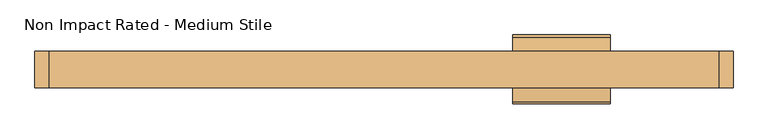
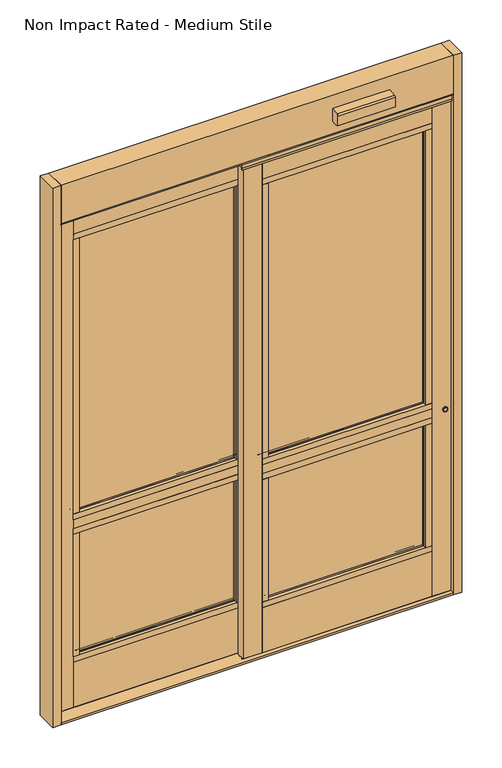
"""IFC4 building model written with IfcOpenShell, lengths in millimetres: door geometry, Door_Sliding_AssaAbloy_Resilience-R128-FBO-Single : Non Impact Rated - Medium Stile."""

from ifc_helpers import new_model, si_unit, point, frame, frame_2d, origin, origin_with_axes, place, context, project, spatial, polyline, circle_curve, ellipse_curve, trimmed, segment, composite_curve, outline, extrude, source, transform, mapped, element, save
from ifc_brep_helpers import plane_surface, cylinder_surface, advanced_brep


def non_impact_rated_medium_stile_77e616cb(model_context):
    return source(origin(), model_context, "Body", "SolidModel", [
        extrude(outline(composite_curve([segment(trimmed(circle_curve(frame_2d((1054.1, 2644.9219468)), 10.4962305), [point((1064.5962305, 2644.9219468))], [point((1043.6037695, 2644.9219468))], False, "CARTESIAN"), True, "CONTINUOUS"), segment(trimmed(circle_curve(frame_2d((1054.1, 2644.9219468)), 10.4962305), [point((1043.6037695, 2644.9219468))], [point((1064.5962305, 2644.9219468))], False, "CARTESIAN"), True, "CONTINUOUS")], self_intersect=False)), frame((0.0, -1081.5692023, 0.0), z_axis=(0.0, 1.0, 0.0), x_axis=(0.0, 0.0, 1.0)), (0.0, 0.0, 1.0), 4.8031585),
        extrude(outline(composite_curve([segment(trimmed(circle_curve(frame_2d((1054.1, 2644.9219468)), 12.7), [point((1066.8, 2644.9219468))], [point((1041.4, 2644.9219468))], False, "CARTESIAN"), True, "CONTINUOUS"), segment(trimmed(circle_curve(frame_2d((1054.1, 2644.9219468)), 12.7), [point((1041.4, 2644.9219468))], [point((1066.8, 2644.9219468))], False, "CARTESIAN"), True, "CONTINUOUS")], self_intersect=False), holes=[composite_curve([segment(trimmed(circle_curve(frame_2d((1054.1, 2644.9219468)), 10.4962305), [point((1064.5962305, 2644.9219468))], [point((1043.6037695, 2644.9219468))], True, "CARTESIAN"), True, "CONTINUOUS"), segment(trimmed(circle_curve(frame_2d((1054.1, 2644.9219468)), 10.4962305), [point((1043.6037695, 2644.9219468))], [point((1064.5962305, 2644.9219468))], True, "CARTESIAN"), True, "CONTINUOUS")], self_intersect=False)]), frame((0.0, -1083.1160438, 0.0), z_axis=(0.0, 1.0, 0.0), x_axis=(0.0, 0.0, 1.0)), (0.0, 0.0, 1.0), 6.35),
        extrude(outline(composite_curve([segment(trimmed(circle_curve(frame_2d((1054.1, 2644.9219468)), 10.4962305), [point((1054.1, 2634.4257163))], [point((1054.1, 2655.4181773))], False, "CARTESIAN"), True, "CONTINUOUS"), segment(trimmed(circle_curve(frame_2d((1054.1, 2644.9219468)), 10.4962305), [point((1054.1, 2655.4181773))], [point((1054.1, 2634.4257163))], False, "CARTESIAN"), True, "CONTINUOUS")], self_intersect=False)), frame((0.0, -1032.3160438, 0.0), z_axis=(0.0, 1.0, 0.0), x_axis=(0.0, 0.0, 1.0)), (0.0, 0.0, 1.0), 4.7625),
        extrude(outline(composite_curve([segment(trimmed(circle_curve(frame_2d((1054.1, 2644.9219468)), 12.7), [point((1054.1, 2632.2219468))], [point((1054.1, 2657.6219468))], False, "CARTESIAN"), True, "CONTINUOUS"), segment(trimmed(circle_curve(frame_2d((1054.1, 2644.9219468)), 12.7), [point((1054.1, 2657.6219468))], [point((1054.1, 2632.2219468))], False, "CARTESIAN"), True, "CONTINUOUS")], self_intersect=False), holes=[composite_curve([segment(trimmed(circle_curve(frame_2d((1054.1, 2644.9219468)), 10.4962305), [point((1054.1, 2634.4257163))], [point((1054.1, 2655.4181773))], True, "CARTESIAN"), True, "CONTINUOUS"), segment(trimmed(circle_curve(frame_2d((1054.1, 2644.9219468)), 10.4962305), [point((1054.1, 2655.4181773))], [point((1054.1, 2634.4257163))], True, "CARTESIAN"), True, "CONTINUOUS")], self_intersect=False)]), frame((0.0, -1032.3160438, 0.0), z_axis=(0.0, 1.0, 0.0), x_axis=(0.0, 0.0, 1.0)), (0.0, 0.0, 1.0), 6.35),
        extrude(outline(polyline([(703.4094468, -989.4535438), (1584.4719468, -989.4535438), (1584.4719468, -995.8035438), (703.4094468, -995.8035438), (703.4094468, -989.4535438)])), frame((0.0, 0.0, 285.75), z_axis=(0.0, 0.0, 1.0), x_axis=(1.0, 0.0, 0.0)), (0.0, 0.0, 1.0), 2393.95),
        extrude(outline(polyline([(1597.1719468, -1022.7910438), (690.7094468, -1022.7910438), (690.7094468, -978.3410438), (1597.1719468, -978.3410438), (1597.1719468, -1022.7910438)])), frame((0.0, 0.0, 1079.5), z_axis=(0.0, 0.0, 1.0), x_axis=(1.0, 0.0, 0.0)), (0.0, 0.0, 1.0), 31.75),
        extrude(outline(polyline([(1597.1719468, -1022.7910438), (690.7094468, -1022.7910438), (690.7094468, -978.3410438), (1597.1719468, -978.3410438), (1597.1719468, -1022.7910438)])), frame((0.0, 0.0, 996.95), z_axis=(0.0, 0.0, 1.0), x_axis=(1.0, 0.0, 0.0)), (0.0, 0.0, 1.0), 31.75),
        extrude(outline(polyline([(722.4594468, -1022.7910438), (690.7094468, -1022.7910438), (690.7094468, -978.3410438), (722.4594468, -978.3410438), (722.4594468, -1022.7910438)])), frame((0.0, 0.0, 1111.25), z_axis=(0.0, 0.0, 1.0), x_axis=(1.0, 0.0, 0.0)), (0.0, 0.0, 1.0), 1549.4),
        extrude(outline(polyline([(722.4594468, -1022.7910438), (690.7094468, -1022.7910438), (690.7094468, -978.3410438), (722.4594468, -978.3410438), (722.4594468, -1022.7910438)])), frame((0.0, 0.0, 304.8), z_axis=(0.0, 0.0, 1.0), x_axis=(1.0, 0.0, 0.0)), (0.0, 0.0, 1.0), 692.15),
        extrude(outline(polyline([(1597.1719468, -1022.7910438), (1565.4219468, -1022.7910438), (1565.4219468, -978.3410438), (1597.1719468, -978.3410438), (1597.1719468, -1022.7910438)])), frame((0.0, 0.0, 304.8), z_axis=(0.0, 0.0, 1.0), x_axis=(1.0, 0.0, 0.0)), (0.0, 0.0, 1.0), 692.15),
        extrude(outline(polyline([(1597.1719468, -1022.7910438), (1565.4219468, -1022.7910438), (1565.4219468, -978.3410438), (1597.1719468, -978.3410438), (1597.1719468, -1022.7910438)])), frame((0.0, 0.0, 1111.25), z_axis=(0.0, 0.0, 1.0), x_axis=(1.0, 0.0, 0.0)), (0.0, 0.0, 1.0), 1549.4),
        extrude(outline(polyline([(690.7094468, -978.3410438), (690.7094468, -1022.7910438), (589.1094468, -1022.7910438), (589.1094468, -978.3410438), (690.7094468, -978.3410438)])), frame((0.0, 0.0, 19.05), z_axis=(0.0, 0.0, 1.0), x_axis=(1.0, 0.0, 0.0)), (0.0, 0.0, 1.0), 2851.15),
        extrude(outline(polyline([(690.7094468, -1022.7910438), (690.7094468, -978.3410438), (1597.1719468, -978.3410438), (1597.1719468, -1022.7910438), (690.7094468, -1022.7910438)])), frame((0.0, 0.0, 1028.7), z_axis=(0.0, 0.0, 1.0), x_axis=(1.0, 0.0, 0.0)), (0.0, 0.0, 1.0), 50.8),
        extrude(outline(polyline([(1597.1719468, -1022.7910438), (690.7094468, -1022.7910438), (690.7094468, -978.3410438), (1597.1719468, -978.3410438), (1597.1719468, -1022.7910438)])), frame((0.0, 0.0, 2660.65), z_axis=(0.0, 0.0, 1.0), x_axis=(1.0, 0.0, 0.0)), (0.0, 0.0, 1.0), 31.75),
        extrude(outline(polyline([(1597.1719468, -1022.7910438), (690.7094468, -1022.7910438), (690.7094468, -978.3410438), (1597.1719468, -978.3410438), (1597.1719468, -1022.7910438)])), frame((0.0, 0.0, 273.05), z_axis=(0.0, 0.0, 1.0), x_axis=(1.0, 0.0, 0.0)), (0.0, 0.0, 1.0), 31.75),
        extrude(outline(polyline([(690.7094468, -978.3410438), (1597.1719468, -978.3410438), (1597.1719468, -1022.7910438), (690.7094468, -1022.7910438), (690.7094468, -978.3410438)])), frame((0.0, 0.0, 2692.4), z_axis=(0.0, 0.0, 1.0), x_axis=(1.0, 0.0, 0.0)), (0.0, 0.0, 1.0), 177.8),
        extrude(outline(polyline([(690.7094468, -978.3410438), (1597.1719468, -978.3410438), (1597.1719468, -1022.7910438), (690.7094468, -1022.7910438), (690.7094468, -978.3410438)])), frame((0.0, 0.0, 19.05), z_axis=(0.0, 0.0, 1.0), x_axis=(1.0, 0.0, 0.0)), (0.0, 0.0, 1.0), 254.0),
        advanced_brep(
        [(1563.7256186, -982.1719606, 2658.9536718), (1564.5073098, -981.5160438, 2659.735363), (1564.5073098, -981.5160438, 305.714637), (1563.7256186, -982.1719606, 306.4963282), (1562.441679, -989.4535438, 2657.6697323), (1562.441679, -989.4535438, 307.7802677), (1565.4219468, -981.5160438, 2660.65), (1565.4219468, -989.4535438, 2660.65), (1565.4219468, -989.4535438, 304.8), (1565.4219468, -981.5160438, 304.8), (723.3740838, -981.5160438, 305.714637), (724.1557749, -982.1719606, 306.4963282), (725.4397145, -989.4535438, 307.7802677), (722.4594468, -989.4535438, 304.8), (722.4594468, -981.5160438, 304.8), (723.3740838, -981.5160438, 2659.735363), (724.1557749, -982.1719606, 2658.9536718), (725.4397145, -989.4535438, 2657.6697323), (722.4594468, -989.4535438, 2660.65), (722.4594468, -981.5160438, 2660.65)],
        [
            (0, 1, ellipse_curve(frame((1564.5073098, -982.3097938, 2659.735363), z_axis=(0.7071067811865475, 0.0, -0.7071067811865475), x_axis=(0.7071067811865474, 0.0, 0.7071067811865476)), 1.122532, 0.79375)),
            (1, 2),
            (2, 3, ellipse_curve(frame((1564.5073098, -982.3097938, 305.714637), z_axis=(0.7071067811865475, 0.0, 0.7071067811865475), x_axis=(-0.7071067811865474, 0.0, 0.7071067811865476)), 1.122532, 0.79375)),
            (3, 0),
            (4, 0),
            (3, 5),
            (5, 4),
            (6, 7),
            (7, 8),
            (8, 9),
            (9, 6),
            (2, 10),
            (10, 11, ellipse_curve(frame((723.3740838, -982.3097938, 305.714637), z_axis=(0.7071067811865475, 0.0, -0.7071067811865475), x_axis=(0.7071067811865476, 0.0, 0.7071067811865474)), 1.122532, 0.79375)),
            (11, 3),
            (11, 12),
            (12, 5),
            (8, 13),
            (13, 14),
            (14, 9),
            (10, 15),
            (15, 16, ellipse_curve(frame((723.3740838, -982.3097938, 2659.735363), z_axis=(-0.7071067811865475, 0.0, -0.7071067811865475), x_axis=(0.7071067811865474, 0.0, -0.7071067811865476)), 1.122532, 0.79375)),
            (16, 11),
            (16, 17),
            (17, 12),
            (13, 18),
            (18, 19),
            (19, 14),
            (19, 6),
            (1, 15),
            (0, 16),
            (4, 17),
            (7, 18),
        ],
        [
            cylinder_surface(frame((1564.5073098, -982.3097938, 2692.4), z_axis=(0.0, 0.0, 1.0), x_axis=(1.0, 0.0, 0.0)), 0.79375),
            plane_surface(frame((1563.7256186, -982.1719606, 2658.9536718), z_axis=(-0.9848077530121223, 0.17364817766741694, 0.0), x_axis=(0.0, 0.0, -1.0))),
            plane_surface(frame((1565.4219468, -989.4535438, 2660.65), z_axis=(1.0, 0.0, 0.0), x_axis=(0.0, 0.0, -1.0))),
            cylinder_surface(frame((1597.1719468, -982.3097938, 305.714637), z_axis=(1.0, 0.0, 0.0), x_axis=(0.0, 0.0, -1.0)), 0.79375),
            plane_surface(frame((1563.7256186, -982.1719606, 306.4963282), z_axis=(0.0, 0.17364817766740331, 0.9848077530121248), x_axis=(-1.0, 0.0, 0.0))),
            plane_surface(frame((1565.4219468, -989.4535438, 304.8), z_axis=(0.0, 0.0, -1.0), x_axis=(-1.0, 0.0, 0.0))),
            cylinder_surface(frame((723.3740838, -982.3097938, 273.05), z_axis=(0.0, 0.0, -1.0), x_axis=(-1.0, 0.0, 0.0)), 0.79375),
            plane_surface(frame((724.1557749, -982.1719606, 306.4963282), z_axis=(0.9848077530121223, 0.17364817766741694, 0.0), x_axis=(0.0, 0.0, 1.0))),
            plane_surface(frame((722.4594468, -989.4535438, 304.8), z_axis=(-1.0, 0.0, 0.0), x_axis=(0.0, 0.0, 1.0))),
            plane_surface(frame((722.4594468, -981.5160438, 2660.65), z_axis=(0.0, 1.0, 0.0), x_axis=(1.0, 0.0, 0.0))),
            cylinder_surface(frame((690.7094468, -982.3097938, 2659.735363), z_axis=(-1.0, 0.0, 0.0), x_axis=(0.0, 0.0, 1.0)), 0.79375),
            plane_surface(frame((724.1557749, -982.1719606, 2658.9536718), z_axis=(0.0, 0.17364817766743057, -0.9848077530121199), x_axis=(1.0, 0.0, 0.0))),
            plane_surface(frame((725.4397145, -989.4535438, 2657.6697323), z_axis=(0.0, -1.0, 0.0), x_axis=(1.0, 0.0, 0.0))),
            plane_surface(frame((722.4594468, -989.4535438, 2660.65), z_axis=(0.0, 0.0, 1.0), x_axis=(1.0, 0.0, 0.0))),
        ],
        [
            (0, [[1, 2, 3, 4]]),
            (1, [[5, -4, 6, 7]]),
            (2, [[8, 9, 10, 11]]),
            (3, [[-3, 12, 13, 14]]),
            (4, [[-6, -14, 15, 16]]),
            (5, [[-10, 17, 18, 19]]),
            (6, [[-13, 20, 21, 22]]),
            (7, [[-15, -22, 23, 24]]),
            (8, [[-18, 25, 26, 27]]),
            (9, [[-19, -27, 28, -11], [29, -20, -12, -2]]),
            (10, [[-21, -29, -1, 30]]),
            (11, [[-23, -30, -5, 31]]),
            (12, [[32, -25, -17, -9], [-16, -24, -31, -7]]),
            (13, [[-26, -32, -8, -28]]),
        ],
    ),
        advanced_brep(
        [(1565.4219468, -995.8035438, 2660.65), (1565.4219468, -1003.7410438, 2660.65), (1565.4219468, -1003.7410438, 304.8), (1565.4219468, -995.8035438, 304.8), (1563.7256186, -1003.0851271, 2658.9536718), (1562.441679, -995.8035438, 2657.6697323), (1562.441679, -995.8035438, 307.7802677), (1563.7256186, -1003.0851271, 306.4963282), (1564.5073098, -1003.7410438, 2659.735363), (1564.5073098, -1003.7410438, 305.714637), (722.4594468, -1003.7410438, 304.8), (722.4594468, -995.8035438, 304.8), (725.4397145, -995.8035438, 307.7802677), (724.1557749, -1003.0851271, 306.4963282), (723.3740838, -1003.7410438, 305.714637), (722.4594468, -1003.7410438, 2660.65), (722.4594468, -995.8035438, 2660.65), (725.4397145, -995.8035438, 2657.6697323), (724.1557749, -1003.0851271, 2658.9536718), (723.3740838, -1003.7410438, 2659.735363)],
        [
            (0, 1),
            (1, 2),
            (2, 3),
            (3, 0),
            (4, 5),
            (5, 6),
            (6, 7),
            (7, 4),
            (8, 4, ellipse_curve(frame((1564.5073098, -1002.9472938, 2659.735363), z_axis=(0.7071067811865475, 0.0, -0.7071067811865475), x_axis=(0.7071067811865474, 0.0, 0.7071067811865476)), 1.122532, 0.79375)),
            (7, 9, ellipse_curve(frame((1564.5073098, -1002.9472938, 305.714637), z_axis=(0.7071067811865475, 0.0, 0.7071067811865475), x_axis=(-0.7071067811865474, 0.0, 0.7071067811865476)), 1.122532, 0.79375)),
            (9, 8),
            (2, 10),
            (10, 11),
            (11, 3),
            (6, 12),
            (12, 13),
            (13, 7),
            (13, 14, ellipse_curve(frame((723.3740838, -1002.9472938, 305.714637), z_axis=(0.7071067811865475, 0.0, -0.7071067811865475), x_axis=(0.7071067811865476, 0.0, 0.7071067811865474)), 1.122532, 0.79375)),
            (14, 9),
            (10, 15),
            (15, 16),
            (16, 11),
            (12, 17),
            (17, 18),
            (18, 13),
            (18, 19, ellipse_curve(frame((723.3740838, -1002.9472938, 2659.735363), z_axis=(-0.7071067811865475, 0.0, -0.7071067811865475), x_axis=(0.7071067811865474, 0.0, -0.7071067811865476)), 1.122532, 0.79375)),
            (19, 14),
            (15, 1),
            (0, 16),
            (5, 17),
            (4, 18),
            (8, 19),
        ],
        [
            plane_surface(frame((1565.4219468, -1003.7410438, 2660.65), z_axis=(1.0, 0.0, 0.0), x_axis=(0.0, 0.0, -1.0))),
            plane_surface(frame((1562.441679, -995.8035438, 2657.6697323), z_axis=(-0.9848077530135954, -0.17364817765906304, 0.0), x_axis=(0.0, 0.0, -1.0))),
            cylinder_surface(frame((1564.5073098, -1002.9472938, 2692.4), z_axis=(0.0, 0.0, 1.0), x_axis=(1.0, 0.0, 0.0)), 0.79375),
            plane_surface(frame((1565.4219468, -1003.7410438, 304.8), z_axis=(0.0, 0.0, -1.0), x_axis=(-1.0, 0.0, 0.0))),
            plane_surface(frame((1562.441679, -995.8035438, 307.7802677), z_axis=(0.0, -0.17364817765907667, 0.9848077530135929), x_axis=(-1.0, 0.0, 0.0))),
            cylinder_surface(frame((1597.1719468, -1002.9472938, 305.714637), z_axis=(1.0, 0.0, 0.0), x_axis=(0.0, 0.0, -1.0)), 0.79375),
            plane_surface(frame((722.4594468, -1003.7410438, 304.8), z_axis=(-1.0, 0.0, 0.0), x_axis=(0.0, 0.0, 1.0))),
            plane_surface(frame((725.4397145, -995.8035438, 307.7802677), z_axis=(0.9848077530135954, -0.17364817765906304, 0.0), x_axis=(0.0, 0.0, 1.0))),
            cylinder_surface(frame((723.3740838, -1002.9472938, 273.05), z_axis=(0.0, 0.0, -1.0), x_axis=(-1.0, 0.0, 0.0)), 0.79375),
            plane_surface(frame((722.4594468, -1003.7410438, 2660.65), z_axis=(0.0, 0.0, 1.0), x_axis=(1.0, 0.0, 0.0))),
            plane_surface(frame((722.4594468, -995.8035438, 2660.65), z_axis=(0.0, 1.0, 0.0), x_axis=(1.0, 0.0, 0.0))),
            plane_surface(frame((725.4397145, -995.8035438, 2657.6697323), z_axis=(0.0, -0.1736481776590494, -0.9848077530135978), x_axis=(1.0, 0.0, 0.0))),
            cylinder_surface(frame((690.7094468, -1002.9472938, 2659.735363), z_axis=(-1.0, 0.0, 0.0), x_axis=(0.0, 0.0, 1.0)), 0.79375),
            plane_surface(frame((723.3740838, -1003.7410438, 2659.735363), z_axis=(0.0, -1.0, 0.0), x_axis=(1.0, 0.0, 0.0))),
        ],
        [
            (0, [[1, 2, 3, 4]]),
            (1, [[5, 6, 7, 8]]),
            (2, [[9, -8, 10, 11]]),
            (3, [[-3, 12, 13, 14]]),
            (4, [[-7, 15, 16, 17]]),
            (5, [[-10, -17, 18, 19]]),
            (6, [[-13, 20, 21, 22]]),
            (7, [[-16, 23, 24, 25]]),
            (8, [[-18, -25, 26, 27]]),
            (9, [[-21, 28, -1, 29]]),
            (10, [[-14, -22, -29, -4], [30, -23, -15, -6]]),
            (11, [[-24, -30, -5, 31]]),
            (12, [[-26, -31, -9, 32]]),
            (13, [[-28, -20, -12, -2], [-19, -27, -32, -11]]),
        ],
    ),
        extrude(outline(composite_curve([segment(polyline([(-1003.7410439, 996.035363), (-1003.7410439, 996.95), (-995.8035438, 996.95), (-995.8035438, 993.9697323), (-1003.0851271, 995.2536718)]), True, "CONTINUOUS"), segment(trimmed(circle_curve(frame_2d((-1002.9472938, 996.035363)), 0.79375), [point((-1003.0851271, 995.2536718))], [point((-1003.7410439, 996.035363))], False, "CARTESIAN"), True, "CONTINUOUS")], self_intersect=False)), frame((690.7094468, 0.0, 0.0), z_axis=(1.0, 0.0, 0.0), x_axis=(0.0, 1.0, 0.0)), (0.0, 0.0, 1.0), 906.4625),
        extrude(outline(composite_curve([segment(trimmed(circle_curve(frame_2d((-982.3097938, 996.035363)), 0.79375), [point((-981.5160438, 996.035363))], [point((-982.1719606, 995.2536718))], False, "CARTESIAN"), True, "CONTINUOUS"), segment(polyline([(-982.1719606, 995.2536718), (-989.4535438, 993.9697323), (-989.4535438, 996.95), (-981.5160438, 996.95), (-981.5160438, 996.035363)]), True, "CONTINUOUS")], self_intersect=False)), frame((690.7094468, 0.0, 0.0), z_axis=(1.0, 0.0, 0.0), x_axis=(0.0, 1.0, 0.0)), (0.0, 0.0, 1.0), 906.4625),
        extrude(outline(composite_curve([segment(trimmed(circle_curve(frame_2d((-1002.9472938, 1112.164637)), 0.79375), [point((-1003.7410439, 1112.164637))], [point((-1003.0851271, 1112.9463282))], False, "CARTESIAN"), True, "CONTINUOUS"), segment(polyline([(-1003.0851271, 1112.9463282), (-995.8035438, 1114.2302677), (-995.8035438, 1111.25), (-1003.7410439, 1111.25), (-1003.7410439, 1112.164637)]), True, "CONTINUOUS")], self_intersect=False)), frame((690.7094468, 0.0, 0.0), z_axis=(1.0, 0.0, 0.0), x_axis=(0.0, 1.0, 0.0)), (0.0, 0.0, 1.0), 906.4625),
        extrude(outline(composite_curve([segment(polyline([(-981.5160438, 1112.164637), (-981.5160438, 1111.25), (-989.4535438, 1111.25), (-989.4535438, 1114.2302677), (-982.1719606, 1112.9463282)]), True, "CONTINUOUS"), segment(trimmed(circle_curve(frame_2d((-982.3097938, 1112.164637)), 0.79375), [point((-982.1719606, 1112.9463282))], [point((-981.5160438, 1112.164637))], False, "CARTESIAN"), True, "CONTINUOUS")], self_intersect=False)), frame((690.7094468, 0.0, 0.0), z_axis=(1.0, 0.0, 0.0), x_axis=(0.0, 1.0, 0.0)), (0.0, 0.0, 1.0), 906.4625),
        extrude(outline(polyline([(1698.7719468, -1011.6785438), (1698.7719468, -1016.4410438), (589.1094468, -1016.4410438), (589.1094468, -1011.6785438), (1698.7719468, -1011.6785438)])), frame((0.0, 0.0, 12.7), z_axis=(0.0, 0.0, 1.0), x_axis=(1.0, 0.0, 0.0)), (0.0, 0.0, 1.0), 6.35),
        extrude(outline(polyline([(1698.7719468, -984.6910438), (1698.7719468, -989.4535438), (589.1094468, -989.4535438), (589.1094468, -984.6910438), (1698.7719468, -984.6910438)])), frame((0.0, 0.0, 12.7), z_axis=(0.0, 0.0, 1.0), x_axis=(1.0, 0.0, 0.0)), (0.0, 0.0, 1.0), 6.35),
        extrude(outline(polyline([(583.5531968, -982.3326578), (589.1094468, -982.3326578), (589.1094468, -987.9741225), (583.5531968, -987.9741225), (583.5531968, -982.3326578)])), frame((0.0, 0.0, 19.05), z_axis=(0.0, 0.0, 1.0), x_axis=(1.0, 0.0, 0.0)), (0.0, 0.0, 1.0), 2851.15),
        extrude(outline(polyline([(583.5531968, -1018.7994299), (583.5531968, -1013.1579652), (589.1094468, -1013.1579652), (589.1094468, -1018.7994299), (583.5531968, -1018.7994299)])), frame((0.0, 0.0, 19.05), z_axis=(0.0, 0.0, 1.0), x_axis=(1.0, 0.0, 0.0)), (0.0, 0.0, 1.0), 2851.15),
        extrude(outline(polyline([(1698.7719468, -978.3410438), (1698.7719468, -1022.7910438), (1597.1719468, -1022.7910438), (1597.1719468, -978.3410438), (1698.7719468, -978.3410438)])), frame((0.0, 0.0, 19.05), z_axis=(0.0, 0.0, 1.0), x_axis=(1.0, 0.0, 0.0)), (0.0, 0.0, 1.0), 2851.15),
        extrude(outline(polyline([(1681.3094468, -1043.4285438), (2562.3719468, -1043.4285438), (2562.3719468, -1049.7785438), (1681.3094468, -1049.7785438), (1681.3094468, -1043.4285438)])), frame((0.0, 0.0, 285.75), z_axis=(0.0, 0.0, 1.0), x_axis=(1.0, 0.0, 0.0)), (0.0, 0.0, 1.0), 2393.95),
        extrude(outline(polyline([(2575.0719468, -1076.7660438), (1668.6094468, -1076.7660438), (1668.6094468, -1032.3160438), (2575.0719468, -1032.3160438), (2575.0719468, -1076.7660438)])), frame((0.0, 0.0, 1079.5), z_axis=(0.0, 0.0, 1.0), x_axis=(1.0, 0.0, 0.0)), (0.0, 0.0, 1.0), 31.75),
        extrude(outline(polyline([(2575.0719468, -1076.7660438), (1668.6094468, -1076.7660438), (1668.6094468, -1032.3160438), (2575.0719468, -1032.3160438), (2575.0719468, -1076.7660438)])), frame((0.0, 0.0, 996.95), z_axis=(0.0, 0.0, 1.0), x_axis=(1.0, 0.0, 0.0)), (0.0, 0.0, 1.0), 31.75),
        extrude(outline(polyline([(1700.3594468, -1076.7660438), (1668.6094468, -1076.7660438), (1668.6094468, -1032.3160438), (1700.3594468, -1032.3160438), (1700.3594468, -1076.7660438)])), frame((0.0, 0.0, 1111.25), z_axis=(0.0, 0.0, 1.0), x_axis=(1.0, 0.0, 0.0)), (0.0, 0.0, 1.0), 1549.4),
        extrude(outline(polyline([(1700.3594468, -1076.7660438), (1668.6094468, -1076.7660438), (1668.6094468, -1032.3160438), (1700.3594468, -1032.3160438), (1700.3594468, -1076.7660438)])), frame((0.0, 0.0, 304.8), z_axis=(0.0, 0.0, 1.0), x_axis=(1.0, 0.0, 0.0)), (0.0, 0.0, 1.0), 692.15),
        extrude(outline(polyline([(2575.0719468, -1076.7660438), (2543.3219468, -1076.7660438), (2543.3219468, -1032.3160438), (2575.0719468, -1032.3160438), (2575.0719468, -1076.7660438)])), frame((0.0, 0.0, 304.8), z_axis=(0.0, 0.0, 1.0), x_axis=(1.0, 0.0, 0.0)), (0.0, 0.0, 1.0), 692.15),
        extrude(outline(polyline([(2575.0719468, -1076.7660438), (2543.3219468, -1076.7660438), (2543.3219468, -1032.3160438), (2575.0719468, -1032.3160438), (2575.0719468, -1076.7660438)])), frame((0.0, 0.0, 1111.25), z_axis=(0.0, 0.0, 1.0), x_axis=(1.0, 0.0, 0.0)), (0.0, 0.0, 1.0), 1549.4),
        extrude(outline(polyline([(1668.6094468, -1032.3160438), (1668.6094468, -1076.7660438), (1567.0094468, -1076.7660438), (1567.0094468, -1032.3160438), (1668.6094468, -1032.3160438)])), frame((0.0, 0.0, 19.05), z_axis=(0.0, 0.0, 1.0), x_axis=(1.0, 0.0, 0.0)), (0.0, 0.0, 1.0), 2774.95),
        extrude(outline(polyline([(1668.6094468, -1076.7660438), (1668.6094468, -1032.3160438), (2575.0719468, -1032.3160438), (2575.0719468, -1076.7660438), (1668.6094468, -1076.7660438)])), frame((0.0, 0.0, 1028.7), z_axis=(0.0, 0.0, 1.0), x_axis=(1.0, 0.0, 0.0)), (0.0, 0.0, 1.0), 50.8),
        extrude(outline(polyline([(2575.0719468, -1076.7660438), (1668.6094468, -1076.7660438), (1668.6094468, -1032.3160438), (2575.0719468, -1032.3160438), (2575.0719468, -1076.7660438)])), frame((0.0, 0.0, 2660.65), z_axis=(0.0, 0.0, 1.0), x_axis=(1.0, 0.0, 0.0)), (0.0, 0.0, 1.0), 31.75),
        extrude(outline(polyline([(2575.0719468, -1076.7660438), (1668.6094468, -1076.7660438), (1668.6094468, -1032.3160438), (2575.0719468, -1032.3160438), (2575.0719468, -1076.7660438)])), frame((0.0, 0.0, 273.05), z_axis=(0.0, 0.0, 1.0), x_axis=(1.0, 0.0, 0.0)), (0.0, 0.0, 1.0), 31.75),
        extrude(outline(polyline([(2683.0219468, -1079.9410438), (1560.6594468, -1079.9410438), (1560.6594468, -1029.1410438), (2683.0219468, -1029.1410438), (2683.0219468, -1079.9410438)])), frame((0.0, 0.0, 2794.0), z_axis=(0.0, 0.0, 1.0), x_axis=(1.0, 0.0, 0.0)), (0.0, 0.0, 1.0), 69.85),
        extrude(outline(polyline([(1668.6094468, -1032.3160438), (2575.0719468, -1032.3160438), (2575.0719468, -1076.7660438), (1668.6094468, -1076.7660438), (1668.6094468, -1032.3160438)])), frame((0.0, 0.0, 2692.4), z_axis=(0.0, 0.0, 1.0), x_axis=(1.0, 0.0, 0.0)), (0.0, 0.0, 1.0), 101.6),
        extrude(outline(polyline([(1668.6094468, -1032.3160438), (2575.0719468, -1032.3160438), (2575.0719468, -1076.7660438), (1668.6094468, -1076.7660438), (1668.6094468, -1032.3160438)])), frame((0.0, 0.0, 19.05), z_axis=(0.0, 0.0, 1.0), x_axis=(1.0, 0.0, 0.0)), (0.0, 0.0, 1.0), 254.0),
        advanced_brep(
        [(2541.6256186, -1036.1469606, 2658.9536718), (2542.4073098, -1035.4910438, 2659.735363), (2542.4073098, -1035.4910438, 305.714637), (2541.6256186, -1036.1469606, 306.4963282), (2540.341679, -1043.4285438, 2657.6697323), (2540.341679, -1043.4285438, 307.7802677), (2543.3219468, -1035.4910438, 2660.65), (2543.3219468, -1043.4285438, 2660.65), (2543.3219468, -1043.4285438, 304.8), (2543.3219468, -1035.4910438, 304.8), (1701.2740838, -1035.4910438, 305.714637), (1702.0557749, -1036.1469606, 306.4963282), (1703.3397145, -1043.4285438, 307.7802677), (1700.3594468, -1043.4285438, 304.8), (1700.3594468, -1035.4910438, 304.8), (1701.2740838, -1035.4910438, 2659.735363), (1702.0557749, -1036.1469606, 2658.9536718), (1703.3397145, -1043.4285438, 2657.6697323), (1700.3594468, -1043.4285438, 2660.65), (1700.3594468, -1035.4910438, 2660.65)],
        [
            (0, 1, ellipse_curve(frame((2542.4073098, -1036.2847938, 2659.735363), z_axis=(0.7071067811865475, 0.0, -0.7071067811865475), x_axis=(0.7071067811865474, 0.0, 0.7071067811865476)), 1.122532, 0.79375)),
            (1, 2),
            (2, 3, ellipse_curve(frame((2542.4073098, -1036.2847938, 305.714637), z_axis=(0.7071067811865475, 0.0, 0.7071067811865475), x_axis=(-0.7071067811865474, 0.0, 0.7071067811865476)), 1.122532, 0.79375)),
            (3, 0),
            (4, 0),
            (3, 5),
            (5, 4),
            (6, 7),
            (7, 8),
            (8, 9),
            (9, 6),
            (2, 10),
            (10, 11, ellipse_curve(frame((1701.2740838, -1036.2847938, 305.714637), z_axis=(0.7071067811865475, 0.0, -0.7071067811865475), x_axis=(0.7071067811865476, 0.0, 0.7071067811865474)), 1.122532, 0.79375)),
            (11, 3),
            (11, 12),
            (12, 5),
            (8, 13),
            (13, 14),
            (14, 9),
            (10, 15),
            (15, 16, ellipse_curve(frame((1701.2740838, -1036.2847938, 2659.735363), z_axis=(-0.7071067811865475, 0.0, -0.7071067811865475), x_axis=(0.7071067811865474, 0.0, -0.7071067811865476)), 1.122532, 0.79375)),
            (16, 11),
            (16, 17),
            (17, 12),
            (13, 18),
            (18, 19),
            (19, 14),
            (19, 6),
            (1, 15),
            (0, 16),
            (4, 17),
            (7, 18),
        ],
        [
            cylinder_surface(frame((2542.4073098, -1036.2847938, 2692.4), z_axis=(0.0, 0.0, 1.0), x_axis=(1.0, 0.0, 0.0)), 0.79375),
            plane_surface(frame((2541.6256186, -1036.1469606, 2658.9536718), z_axis=(-0.9848077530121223, 0.17364817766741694, 0.0), x_axis=(0.0, 0.0, -1.0))),
            plane_surface(frame((2543.3219468, -1043.4285438, 2660.65), z_axis=(1.0, 0.0, 0.0), x_axis=(0.0, 0.0, -1.0))),
            cylinder_surface(frame((2575.0719468, -1036.2847938, 305.714637), z_axis=(1.0, 0.0, 0.0), x_axis=(0.0, 0.0, -1.0)), 0.79375),
            plane_surface(frame((2541.6256186, -1036.1469606, 306.4963282), z_axis=(0.0, 0.17364817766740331, 0.9848077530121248), x_axis=(-1.0, 0.0, 0.0))),
            plane_surface(frame((2543.3219468, -1043.4285438, 304.8), z_axis=(0.0, 0.0, -1.0), x_axis=(-1.0, 0.0, 0.0))),
            cylinder_surface(frame((1701.2740838, -1036.2847938, 273.05), z_axis=(0.0, 0.0, -1.0), x_axis=(-1.0, 0.0, 0.0)), 0.79375),
            plane_surface(frame((1702.0557749, -1036.1469606, 306.4963282), z_axis=(0.9848077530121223, 0.17364817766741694, 0.0), x_axis=(0.0, 0.0, 1.0))),
            plane_surface(frame((1700.3594468, -1043.4285438, 304.8), z_axis=(-1.0, 0.0, 0.0), x_axis=(0.0, 0.0, 1.0))),
            plane_surface(frame((1700.3594468, -1035.4910438, 2660.65), z_axis=(0.0, 1.0, 0.0), x_axis=(1.0, 0.0, 0.0))),
            cylinder_surface(frame((1668.6094468, -1036.2847938, 2659.735363), z_axis=(-1.0, 0.0, 0.0), x_axis=(0.0, 0.0, 1.0)), 0.79375),
            plane_surface(frame((1702.0557749, -1036.1469606, 2658.9536718), z_axis=(0.0, 0.17364817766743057, -0.9848077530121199), x_axis=(1.0, 0.0, 0.0))),
            plane_surface(frame((1703.3397145, -1043.4285438, 2657.6697323), z_axis=(0.0, -1.0, 0.0), x_axis=(1.0, 0.0, 0.0))),
            plane_surface(frame((1700.3594468, -1043.4285438, 2660.65), z_axis=(0.0, 0.0, 1.0), x_axis=(1.0, 0.0, 0.0))),
        ],
        [
            (0, [[1, 2, 3, 4]]),
            (1, [[5, -4, 6, 7]]),
            (2, [[8, 9, 10, 11]]),
            (3, [[-3, 12, 13, 14]]),
            (4, [[-6, -14, 15, 16]]),
            (5, [[-10, 17, 18, 19]]),
            (6, [[-13, 20, 21, 22]]),
            (7, [[-15, -22, 23, 24]]),
            (8, [[-18, 25, 26, 27]]),
            (9, [[-19, -27, 28, -11], [29, -20, -12, -2]]),
            (10, [[-21, -29, -1, 30]]),
            (11, [[-23, -30, -5, 31]]),
            (12, [[32, -25, -17, -9], [-16, -24, -31, -7]]),
            (13, [[-26, -32, -8, -28]]),
        ],
    ),
        advanced_brep(
        [(2543.3219468, -1049.7785438, 2660.65), (2543.3219468, -1057.7160438, 2660.65), (2543.3219468, -1057.7160438, 304.8), (2543.3219468, -1049.7785438, 304.8), (2541.6256186, -1057.0601271, 2658.9536718), (2540.341679, -1049.7785438, 2657.6697323), (2540.341679, -1049.7785438, 307.7802677), (2541.6256186, -1057.0601271, 306.4963282), (2542.4073098, -1057.7160438, 2659.735363), (2542.4073098, -1057.7160438, 305.714637), (1700.3594468, -1057.7160438, 304.8), (1700.3594468, -1049.7785438, 304.8), (1703.3397145, -1049.7785438, 307.7802677), (1702.0557749, -1057.0601271, 306.4963282), (1701.2740838, -1057.7160438, 305.714637), (1700.3594468, -1057.7160438, 2660.65), (1700.3594468, -1049.7785438, 2660.65), (1703.3397145, -1049.7785438, 2657.6697323), (1702.0557749, -1057.0601271, 2658.9536718), (1701.2740838, -1057.7160438, 2659.735363)],
        [
            (0, 1),
            (1, 2),
            (2, 3),
            (3, 0),
            (4, 5),
            (5, 6),
            (6, 7),
            (7, 4),
            (8, 4, ellipse_curve(frame((2542.4073098, -1056.9222938, 2659.735363), z_axis=(0.7071067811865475, 0.0, -0.7071067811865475), x_axis=(0.7071067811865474, 0.0, 0.7071067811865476)), 1.122532, 0.79375)),
            (7, 9, ellipse_curve(frame((2542.4073098, -1056.9222938, 305.714637), z_axis=(0.7071067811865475, 0.0, 0.7071067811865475), x_axis=(-0.7071067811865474, 0.0, 0.7071067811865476)), 1.122532, 0.79375)),
            (9, 8),
            (2, 10),
            (10, 11),
            (11, 3),
            (6, 12),
            (12, 13),
            (13, 7),
            (13, 14, ellipse_curve(frame((1701.2740838, -1056.9222938, 305.714637), z_axis=(0.7071067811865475, 0.0, -0.7071067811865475), x_axis=(0.7071067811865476, 0.0, 0.7071067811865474)), 1.122532, 0.79375)),
            (14, 9),
            (10, 15),
            (15, 16),
            (16, 11),
            (12, 17),
            (17, 18),
            (18, 13),
            (18, 19, ellipse_curve(frame((1701.2740838, -1056.9222938, 2659.735363), z_axis=(-0.7071067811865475, 0.0, -0.7071067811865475), x_axis=(0.7071067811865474, 0.0, -0.7071067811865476)), 1.122532, 0.79375)),
            (19, 14),
            (15, 1),
            (0, 16),
            (5, 17),
            (4, 18),
            (8, 19),
        ],
        [
            plane_surface(frame((2543.3219468, -1057.7160438, 2660.65), z_axis=(1.0, 0.0, 0.0), x_axis=(0.0, 0.0, -1.0))),
            plane_surface(frame((2540.341679, -1049.7785438, 2657.6697323), z_axis=(-0.9848077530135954, -0.17364817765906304, 0.0), x_axis=(0.0, 0.0, -1.0))),
            cylinder_surface(frame((2542.4073098, -1056.9222938, 2692.4), z_axis=(0.0, 0.0, 1.0), x_axis=(1.0, 0.0, 0.0)), 0.79375),
            plane_surface(frame((2543.3219468, -1057.7160438, 304.8), z_axis=(0.0, 0.0, -1.0), x_axis=(-1.0, 0.0, 0.0))),
            plane_surface(frame((2540.341679, -1049.7785438, 307.7802677), z_axis=(0.0, -0.17364817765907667, 0.9848077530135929), x_axis=(-1.0, 0.0, 0.0))),
            cylinder_surface(frame((2575.0719468, -1056.9222938, 305.714637), z_axis=(1.0, 0.0, 0.0), x_axis=(0.0, 0.0, -1.0)), 0.79375),
            plane_surface(frame((1700.3594468, -1057.7160438, 304.8), z_axis=(-1.0, 0.0, 0.0), x_axis=(0.0, 0.0, 1.0))),
            plane_surface(frame((1703.3397145, -1049.7785438, 307.7802677), z_axis=(0.9848077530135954, -0.17364817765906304, 0.0), x_axis=(0.0, 0.0, 1.0))),
            cylinder_surface(frame((1701.2740838, -1056.9222938, 273.05), z_axis=(0.0, 0.0, -1.0), x_axis=(-1.0, 0.0, 0.0)), 0.79375),
            plane_surface(frame((1700.3594468, -1057.7160438, 2660.65), z_axis=(0.0, 0.0, 1.0), x_axis=(1.0, 0.0, 0.0))),
            plane_surface(frame((1700.3594468, -1049.7785438, 2660.65), z_axis=(0.0, 1.0, 0.0), x_axis=(1.0, 0.0, 0.0))),
            plane_surface(frame((1703.3397145, -1049.7785438, 2657.6697323), z_axis=(0.0, -0.1736481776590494, -0.9848077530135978), x_axis=(1.0, 0.0, 0.0))),
            cylinder_surface(frame((1668.6094468, -1056.9222938, 2659.735363), z_axis=(-1.0, 0.0, 0.0), x_axis=(0.0, 0.0, 1.0)), 0.79375),
            plane_surface(frame((1701.2740838, -1057.7160438, 2659.735363), z_axis=(0.0, -1.0, 0.0), x_axis=(1.0, 0.0, 0.0))),
        ],
        [
            (0, [[1, 2, 3, 4]]),
            (1, [[5, 6, 7, 8]]),
            (2, [[9, -8, 10, 11]]),
            (3, [[-3, 12, 13, 14]]),
            (4, [[-7, 15, 16, 17]]),
            (5, [[-10, -17, 18, 19]]),
            (6, [[-13, 20, 21, 22]]),
            (7, [[-16, 23, 24, 25]]),
            (8, [[-18, -25, 26, 27]]),
            (9, [[-21, 28, -1, 29]]),
            (10, [[-14, -22, -29, -4], [30, -23, -15, -6]]),
            (11, [[-24, -30, -5, 31]]),
            (12, [[-26, -31, -9, 32]]),
            (13, [[-28, -20, -12, -2], [-19, -27, -32, -11]]),
        ],
    ),
        extrude(outline(composite_curve([segment(polyline([(-1057.7160439, 996.035363), (-1057.7160439, 996.95), (-1049.7785438, 996.95), (-1049.7785438, 993.9697323), (-1057.0601271, 995.2536718)]), True, "CONTINUOUS"), segment(trimmed(circle_curve(frame_2d((-1056.9222938, 996.035363)), 0.79375), [point((-1057.0601271, 995.2536718))], [point((-1057.7160439, 996.035363))], False, "CARTESIAN"), True, "CONTINUOUS")], self_intersect=False)), frame((1668.6094468, 0.0, 0.0), z_axis=(1.0, 0.0, 0.0), x_axis=(0.0, 1.0, 0.0)), (0.0, 0.0, 1.0), 906.4625),
        extrude(outline(composite_curve([segment(trimmed(circle_curve(frame_2d((-1036.2847938, 996.035363)), 0.79375), [point((-1035.4910438, 996.035363))], [point((-1036.1469606, 995.2536718))], False, "CARTESIAN"), True, "CONTINUOUS"), segment(polyline([(-1036.1469606, 995.2536718), (-1043.4285438, 993.9697323), (-1043.4285438, 996.95), (-1035.4910438, 996.95), (-1035.4910438, 996.035363)]), True, "CONTINUOUS")], self_intersect=False)), frame((1668.6094468, 0.0, 0.0), z_axis=(1.0, 0.0, 0.0), x_axis=(0.0, 1.0, 0.0)), (0.0, 0.0, 1.0), 906.4625),
        extrude(outline(composite_curve([segment(trimmed(circle_curve(frame_2d((-1056.9222938, 1112.164637)), 0.79375), [point((-1057.7160439, 1112.164637))], [point((-1057.0601271, 1112.9463282))], False, "CARTESIAN"), True, "CONTINUOUS"), segment(polyline([(-1057.0601271, 1112.9463282), (-1049.7785438, 1114.2302677), (-1049.7785438, 1111.25), (-1057.7160439, 1111.25), (-1057.7160439, 1112.164637)]), True, "CONTINUOUS")], self_intersect=False)), frame((1668.6094468, 0.0, 0.0), z_axis=(1.0, 0.0, 0.0), x_axis=(0.0, 1.0, 0.0)), (0.0, 0.0, 1.0), 906.4625),
        extrude(outline(composite_curve([segment(polyline([(-1035.4910438, 1112.164637), (-1035.4910438, 1111.25), (-1043.4285438, 1111.25), (-1043.4285438, 1114.2302677), (-1036.1469606, 1112.9463282)]), True, "CONTINUOUS"), segment(trimmed(circle_curve(frame_2d((-1036.2847938, 1112.164637)), 0.79375), [point((-1036.1469606, 1112.9463282))], [point((-1035.4910438, 1112.164637))], False, "CARTESIAN"), True, "CONTINUOUS")], self_intersect=False)), frame((1668.6094468, 0.0, 0.0), z_axis=(1.0, 0.0, 0.0), x_axis=(0.0, 1.0, 0.0)), (0.0, 0.0, 1.0), 906.4625),
        extrude(outline(polyline([(2676.6719468, -1065.6535438), (2676.6719468, -1070.4160438), (1567.0094468, -1070.4160438), (1567.0094468, -1065.6535438), (2676.6719468, -1065.6535438)])), frame((0.0, 0.0, 12.7), z_axis=(0.0, 0.0, 1.0), x_axis=(1.0, 0.0, 0.0)), (0.0, 0.0, 1.0), 6.35),
        extrude(outline(polyline([(2676.6719468, -1038.6660438), (2676.6719468, -1043.4285438), (1567.0094468, -1043.4285438), (1567.0094468, -1038.6660438), (2676.6719468, -1038.6660438)])), frame((0.0, 0.0, 12.7), z_axis=(0.0, 0.0, 1.0), x_axis=(1.0, 0.0, 0.0)), (0.0, 0.0, 1.0), 6.35),
        extrude(outline(polyline([(1560.6594468, -1029.1410438), (2683.0219468, -1029.1410438), (2683.0219468, -1032.3160438), (1560.6594468, -1032.3160438), (1560.6594468, -1029.1410438)])), frame((0.0, 0.0, 2784.475), z_axis=(0.0, 0.0, 1.0), x_axis=(1.0, 0.0, 0.0)), (0.0, 0.0, 1.0), 9.525),
        extrude(outline(polyline([(1560.6594468, -1076.7660438), (2683.0219468, -1076.7660438), (2683.0219468, -1079.9410438), (1560.6594468, -1079.9410438), (1560.6594468, -1076.7660438)])), frame((0.0, 0.0, 2784.475), z_axis=(0.0, 0.0, 1.0), x_axis=(1.0, 0.0, 0.0)), (0.0, 0.0, 1.0), 9.525),
        extrude(outline(polyline([(2684.6094468, -1036.3076578), (2684.6094468, -1041.9491225), (2676.6719468, -1041.9491225), (2676.6719468, -1036.3076578), (2684.6094468, -1036.3076578)])), frame((0.0, 0.0, 19.05), z_axis=(0.0, 0.0, 1.0), x_axis=(1.0, 0.0, 0.0)), (0.0, 0.0, 1.0), 2774.95),
        extrude(outline(polyline([(2684.6094468, -1072.7744299), (2676.6719468, -1072.7744299), (2676.6719468, -1067.1329652), (2684.6094468, -1067.1329652), (2684.6094468, -1072.7744299)])), frame((0.0, 0.0, 19.05), z_axis=(0.0, 0.0, 1.0), x_axis=(1.0, 0.0, 0.0)), (0.0, 0.0, 1.0), 2774.95),
        extrude(outline(polyline([(2676.6719468, -1032.3160438), (2676.6719468, -1076.7660438), (2575.0719468, -1076.7660438), (2575.0719468, -1032.3160438), (2676.6719468, -1032.3160438)])), frame((0.0, 0.0, 19.05), z_axis=(0.0, 0.0, 1.0), x_axis=(1.0, 0.0, 0.0)), (0.0, 0.0, 1.0), 2774.95),
        extrude(outline(composite_curve([segment(polyline([(-978.3410438, 2974.18125), (-934.4950773, 2969.5728532)]), True, "CONTINUOUS"), segment(trimmed(circle_curve(frame_2d((-935.3068222, 2961.8496166)), 7.7657783), [point((-934.4950773, 2969.5728532))], [point((-927.5410438, 2961.8496166))], False, "CARTESIAN"), True, "CONTINUOUS"), segment(polyline([(-927.5410438, 2961.8496166), (-927.5410438, 2907.177964), (-945.4421883, 2900.6624802), (-978.3410438, 2904.1202893), (-978.3410438, 2974.18125)]), True, "CONTINUOUS")], self_intersect=False)), frame((2035.3219468, 0.0, 0.0), z_axis=(1.0, 0.0, 0.0), x_axis=(0.0, 1.0, 0.0)), (0.0, 0.0, 1.0), 304.8),
        extrude(outline(composite_curve([segment(polyline([(-1092.6410438, 2974.18125), (-1092.6410438, 2904.1202893), (-1125.5398994, 2900.6624802), (-1143.4410438, 2907.177964), (-1143.4410438, 2961.8496166)]), True, "CONTINUOUS"), segment(trimmed(circle_curve(frame_2d((-1135.6752655, 2961.8496166)), 7.7657783), [point((-1143.4410438, 2961.8496166))], [point((-1136.4870104, 2969.5728532))], False, "CARTESIAN"), True, "CONTINUOUS"), segment(polyline([(-1136.4870104, 2969.5728532), (-1092.6410438, 2974.18125)]), True, "CONTINUOUS")], self_intersect=False)), frame((2035.3219468, 0.0, 0.0), z_axis=(1.0, 0.0, 0.0), x_axis=(0.0, 1.0, 0.0)), (0.0, 0.0, 1.0), 304.8),
        advanced_brep(
        [(2680.6406968, -1092.6410438, 3048.0), (2680.6406968, -1092.6410438, 2830.5125), (2680.6406968, -1082.3955212, 2819.4), (2680.6406968, -1078.3535438, 2819.4), (2680.6406968, -1078.3535438, 2870.2), (2680.6406968, -1027.5535438, 2870.2), (2680.6406968, -1027.5535438, 2819.4), (2680.6406968, -988.5865665, 2819.4), (2680.6406968, -978.3410438, 2830.5125), (2680.6406968, -978.3410438, 3048.0), (1694.8031968, -978.3410438, 2830.5125), (1694.8031968, -988.5865665, 2819.4), (1694.8031968, -1027.5535438, 2819.4), (1694.8031968, -1027.5535438, 2870.2), (1694.8031968, -978.3410438, 2870.2), (585.1406968, -1078.3535438, 2870.2), (585.1406968, -1078.3535438, 2819.4), (585.1406968, -1082.3955212, 2819.4), (585.1406968, -1092.6410438, 2830.5125), (585.1406968, -1092.6410438, 3048.0), (585.1406968, -978.3410438, 3048.0), (585.1406968, -978.3410438, 2870.2), (1694.8031968, -1082.3955212, 2819.4), (1694.8031968, -1092.6410438, 2830.5125)],
        [
            (0, 1),
            (1, 2, circle_curve(frame((2680.6406968, -1081.491862, 2830.5125), z_axis=(1.0, 0.0, 0.0), x_axis=(0.0, 1.0, 0.0)), 11.1491819)),
            (2, 3),
            (3, 4),
            (4, 5),
            (5, 6),
            (6, 7),
            (7, 8, circle_curve(frame((2680.6406968, -989.4902257, 2830.5125), z_axis=(1.0, 0.0, 0.0), x_axis=(0.0, 1.0, 0.0)), 11.1491819)),
            (8, 9),
            (9, 0),
            (10, 11, circle_curve(frame((1694.8031968, -989.4902257, 2830.5125), z_axis=(-1.0, 0.0, 0.0), x_axis=(0.0, 1.0, 0.0)), 11.1491819)),
            (11, 12),
            (12, 13),
            (13, 14),
            (14, 10),
            (15, 16),
            (16, 17),
            (17, 18, circle_curve(frame((585.1406968, -1081.491862, 2830.5125), z_axis=(-1.0, 0.0, 0.0), x_axis=(0.0, 1.0, 0.0)), 11.1491819)),
            (18, 19),
            (19, 20),
            (20, 21),
            (21, 15),
            (17, 22),
            (22, 23, circle_curve(frame((1694.8031968, -1081.491862, 2830.5125), z_axis=(-1.0, 0.0, 0.0), x_axis=(0.0, 1.0, 0.0)), 11.1491819)),
            (23, 18),
            (0, 19),
            (23, 1),
            (22, 2),
            (16, 3),
            (15, 4),
            (21, 14),
            (13, 5),
            (12, 6),
            (11, 7),
            (10, 8),
            (20, 9),
        ],
        [
            plane_surface(frame((2680.6406968, -1092.6410438, 2830.5125), z_axis=(1.0, 0.0, 0.0), x_axis=(0.0, 0.0, -1.0))),
            plane_surface(frame((1694.8031968, -1092.6410438, 2830.5125), z_axis=(-1.0, 0.0, 0.0), x_axis=(0.0, 0.0, 1.0))),
            plane_surface(frame((585.1406968, -1078.3535438, 2870.2), z_axis=(-1.0, 0.0, 0.0), x_axis=(0.0, -1.0, 0.0))),
            cylinder_surface(frame((585.1406968, -1081.491862, 2830.5125), z_axis=(1.0, 0.0, 0.0), x_axis=(0.0, 1.0, 0.0)), 11.1491819),
            plane_surface(frame((2680.6406968, -1092.6410438, 3048.0), z_axis=(0.0, -1.0, 0.0), x_axis=(-1.0, 0.0, 0.0))),
            cylinder_surface(frame((1694.8031968, -1081.491862, 2830.5125), z_axis=(1.0, 0.0, 0.0), x_axis=(0.0, 1.0, 0.0)), 11.1491819),
            plane_surface(frame((2680.6406968, -1082.3955212, 2819.4), z_axis=(0.0, 0.0, -1.0), x_axis=(-1.0, 0.0, 0.0))),
            plane_surface(frame((2680.6406968, -1078.3535438, 2819.4), z_axis=(0.0, 1.0, 0.0), x_axis=(-1.0, 0.0, 0.0))),
            plane_surface(frame((2680.6406968, -1078.3535438, 2870.2), z_axis=(0.0, 0.0, -1.0), x_axis=(-1.0, 0.0, 0.0))),
            plane_surface(frame((2680.6406968, -1027.5535438, 2870.2), z_axis=(0.0, -1.0, 0.0), x_axis=(-1.0, 0.0, 0.0))),
            plane_surface(frame((2680.6406968, -1027.5535438, 2819.4), z_axis=(0.0, 0.0, -1.0), x_axis=(-1.0, 0.0, 0.0))),
            cylinder_surface(frame((1694.8031968, -989.4902257, 2830.5125), z_axis=(1.0, 0.0, 0.0), x_axis=(0.0, 1.0, 0.0)), 11.1491819),
            plane_surface(frame((2680.6406968, -978.3410438, 2830.5125), z_axis=(0.0, 1.0, 0.0), x_axis=(-1.0, 0.0, 0.0))),
            plane_surface(frame((2680.6406968, -978.3410438, 3048.0), z_axis=(0.0, 0.0, 1.0), x_axis=(-1.0, 0.0, 0.0))),
        ],
        [
            (0, [[1, 2, 3, 4, 5, 6, 7, 8, 9, 10]]),
            (1, [[11, 12, 13, 14, 15]]),
            (2, [[16, 17, 18, 19, 20, 21, 22]]),
            (3, [[-18, 23, 24, 25]]),
            (4, [[-1, 26, -19, -25, 27]]),
            (5, [[-2, -27, -24, 28]]),
            (6, [[-3, -28, -23, -17, 29]]),
            (7, [[-4, -29, -16, 30]]),
            (8, [[-5, -30, -22, 31, -14, 32]]),
            (9, [[-6, -32, -13, 33]]),
            (10, [[-7, -33, -12, 34]]),
            (11, [[-8, -34, -11, 35]]),
            (12, [[-9, -35, -15, -31, -21, 36]]),
            (13, [[-26, -10, -36, -20]]),
        ],
    ),
        extrude(outline(polyline([(2680.6406968, -978.3410438), (2680.6406968, -1092.6410438), (585.1406968, -1092.6410438), (585.1406968, -978.3410438), (2680.6406968, -978.3410438)])), origin_with_axes(), (0.0, 0.0, 1.0), 12.7),
        extrude(outline(polyline([(2725.0906968, -978.3410438), (2725.0906968, -1092.6410438), (2680.6406968, -1092.6410438), (2680.6406968, -978.3410438), (2725.0906968, -978.3410438)])), origin_with_axes(), (0.0, 0.0, 1.0), 3048.0),
        extrude(outline(polyline([(585.1406968, -978.3410438), (585.1406968, -1092.6410438), (540.6906968, -1092.6410438), (540.6906968, -978.3410438), (585.1406968, -978.3410438)])), origin_with_axes(), (0.0, 0.0, 1.0), 3048.0),
    ])


if __name__ == "__main__":
    model = new_model("IFC4")
    model_context = context("Model", 3, world=origin())
    ifc_project = project(units=[si_unit("LENGTHUNIT", "METRE", prefix="MILLI")], contexts=[model_context])
    site = spatial("IfcSite", under=ifc_project)
    building = spatial("IfcBuilding", under=site)
    placement = place(None, origin())
    non_impact_rated_medium_stile_shape = non_impact_rated_medium_stile_77e616cb(model_context)
    element("IfcDoor", 1, ObjectType="Door_Sliding_AssaAbloy_Resilience-R128-FBO-Single : Non Impact Rated - Medium Stile", at=placement, inside=building, context=model_context, shape_type="MappedRepresentation", body=[
        mapped(non_impact_rated_medium_stile_shape, transform((0.0, 0.0, 0.0), x_axis=(1.0, 0.0, 0.0), y_axis=(0.0, 1.0, 0.0), z_axis=(0.0, 0.0, 1.0))),
    ])
    save(model, "model.ifc")
